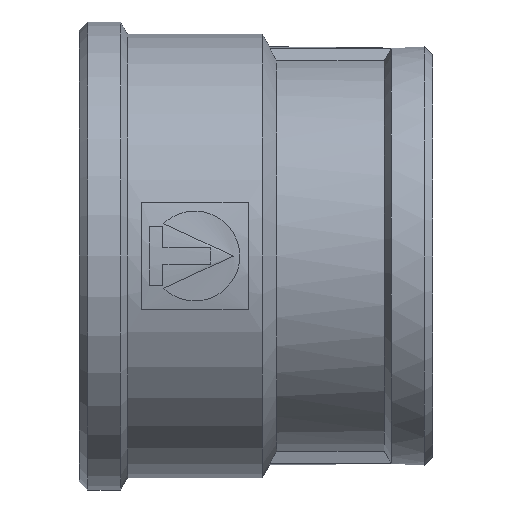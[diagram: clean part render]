
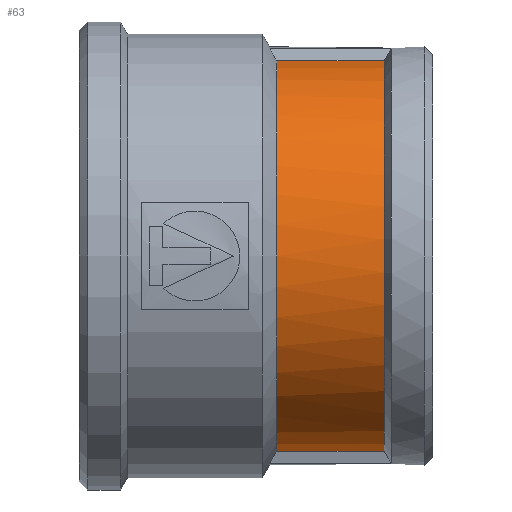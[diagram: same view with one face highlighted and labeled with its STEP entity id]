
A CAD part, left-side view. The second image highlights one B-rep face of the part: STEP entity #63.
In plain terms, the highlighted cylindrical face has radius 24 mm (diameter 48 mm), a partial arc.
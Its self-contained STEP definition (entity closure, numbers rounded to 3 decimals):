
#63=ADVANCED_FACE('',(#467),#469,.T.);
#467=FACE_BOUND('',#468,.T.);
#468=EDGE_LOOP('',(#2191,#2192,#2193,#2194,#2195));
#469=CYLINDRICAL_SURFACE('',#470,24.);
#470=AXIS2_PLACEMENT_3D('',#471,#472,#473);
#471=CARTESIAN_POINT('',(0.,-43.,0.));
#472=DIRECTION('',(0.,1.,0.));
#473=DIRECTION('',(-1.,0.,0.));
#2191=ORIENTED_EDGE('',*,*,#3682,.F.);
#2192=ORIENTED_EDGE('',*,*,#3681,.F.);
#2193=ORIENTED_EDGE('',*,*,#3678,.F.);
#2194=ORIENTED_EDGE('',*,*,#3675,.T.);
#2195=ORIENTED_EDGE('',*,*,#3674,.T.);
#3674=EDGE_CURVE('',#4366,#4364,#4367,.F.);
#3675=EDGE_CURVE('',#4368,#4366,#4369,.F.);
#3678=EDGE_CURVE('',#4368,#4373,#4374,.F.);
#3681=EDGE_CURVE('',#4373,#4376,#4378,.T.);
#3682=EDGE_CURVE('',#4376,#4364,#4379,.T.);
#4364=VERTEX_POINT('',#5571);
#4366=VERTEX_POINT('',#5580);
#4367=CIRCLE('',#5581,24.);
#4368=VERTEX_POINT('',#5585);
#4369=CIRCLE('',#5586,24.);
#4373=VERTEX_POINT('',#5603);
#4374=LINE('',#5604,#5605);
#4376=VERTEX_POINT('',#5613);
#4378=CIRCLE('',#5620,24.);
#4379=LINE('',#5624,#5625);
#5571=CARTESIAN_POINT('',(-3.42,-24.,-23.755));
#5580=CARTESIAN_POINT('',(-24.,-24.,0.));
#5581=AXIS2_PLACEMENT_3D('',#5582,#5583,#5584);
#5582=CARTESIAN_POINT('',(0.,-24.,0.));
#5583=DIRECTION('',(0.,1.,0.));
#5584=DIRECTION('',(-0.143,0.,-0.99));
#5585=CARTESIAN_POINT('',(-3.42,-24.,23.755));
#5586=AXIS2_PLACEMENT_3D('',#5587,#5588,#5589);
#5587=CARTESIAN_POINT('',(0.,-24.,0.));
#5588=DIRECTION('',(0.,1.,0.));
#5589=DIRECTION('',(-1.,0.,0.));
#5603=CARTESIAN_POINT('',(-3.42,-37.134,23.755));
#5604=CARTESIAN_POINT('',(-3.42,-37.134,23.755));
#5605=VECTOR('',#5606,1.);
#5606=DIRECTION('',(0.,1.,0.));
#5613=CARTESIAN_POINT('',(-3.42,-37.134,-23.755));
#5620=AXIS2_PLACEMENT_3D('',#5621,#5622,#5623);
#5621=CARTESIAN_POINT('',(0.,-37.134,0.));
#5622=DIRECTION('',(0.,-1.,0.));
#5623=DIRECTION('',(-0.143,0.,0.99));
#5624=CARTESIAN_POINT('',(-3.42,-37.134,-23.755));
#5625=VECTOR('',#5626,1.);
#5626=DIRECTION('',(0.,1.,0.));
